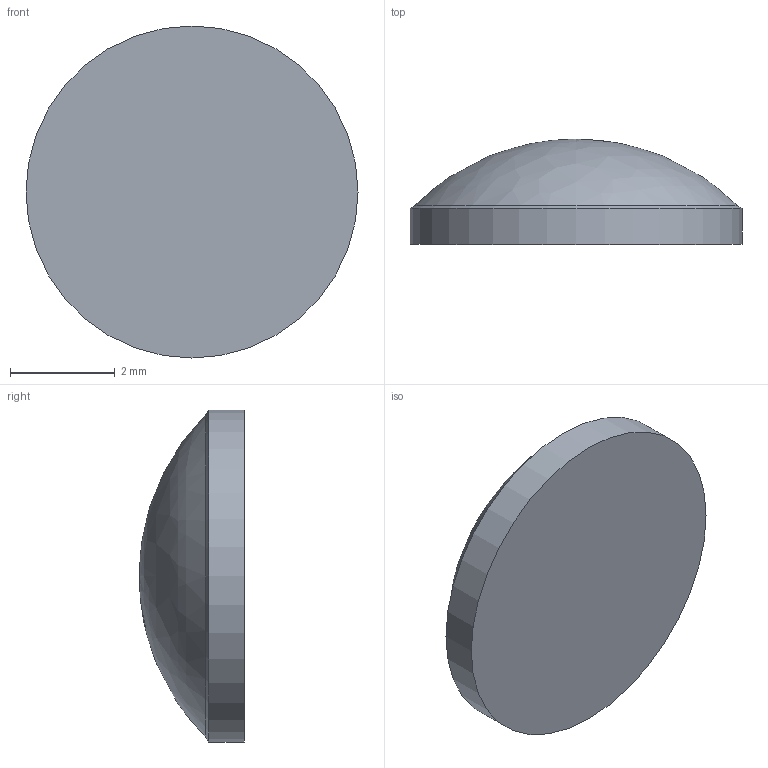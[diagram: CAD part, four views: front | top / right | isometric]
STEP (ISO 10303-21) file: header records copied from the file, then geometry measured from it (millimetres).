
FILE_DESCRIPTION(/* description */ (''),/* implementation_level */ '2;1');
FILE_NAME(/* name */ 'C:/Users/Mark/Downloads/STEP Files/BS25.step',/* time_stamp */ '2020-02-10T11:33:07-05:00',/* author */ (''),/* organization */ (''),/* preprocessor_version */ 'ST-DEVELOPER v18',/* originating_system */ 'Autodesk Translation Framework v8.12.0.6',/* authorisation */ '');
FILE_SCHEMA (('AUTOMOTIVE_DESIGN { 1 0 10303 214 3 1 1 }'));
Length unit declared in the file: inch
Products named in the file (1): BS25
Bounding box: 6.35 x 2.01 x 6.35 mm (x, y, z)
Volume: 43.6 mm3; surface area: 82.4 mm2
Topology: 1 solids, 1 shells, 4 faces, 11 edges, 8 vertices
Faces by surface type: bspline 1, torus 1, cylinder 1, plane 1
Full cylindrical faces by diameter (mm): 6.35 x1
Entity records: 192 total; most frequent: CARTESIAN_POINT 49, DIRECTION 27, ORIENTED_EDGE 20, AXIS2_PLACEMENT_3D 13, EDGE_CURVE 10, CIRCLE 9, VERTEX_POINT 8, FACE_OUTER_BOUND 4
